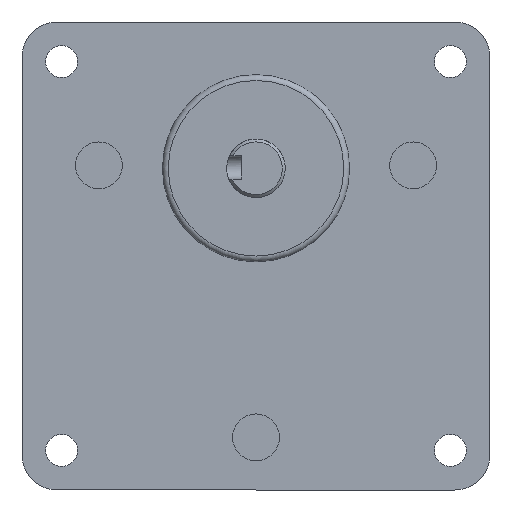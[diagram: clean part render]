
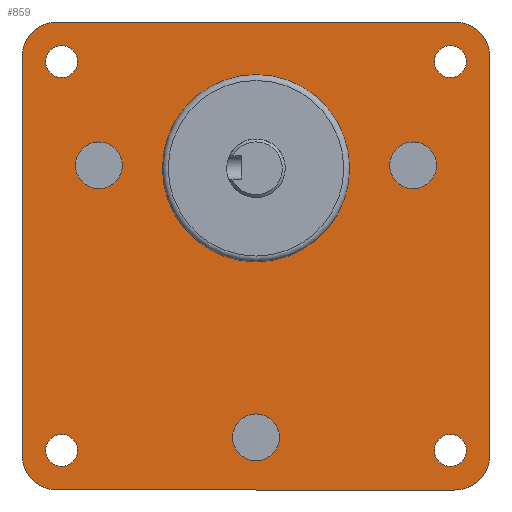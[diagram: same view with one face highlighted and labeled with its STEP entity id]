
A CAD part, front view. The second image highlights one B-rep face of the part: STEP entity #859.
In plain terms, the highlighted planar face has unit normal (0, -1, 0).
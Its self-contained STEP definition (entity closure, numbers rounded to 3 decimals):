
#121=CARTESIAN_POINT('',(24.847,0.0,18.964));
#122=VERTEX_POINT('',#121);
#123=CARTESIAN_POINT('',(26.847,0.0,15.5));
#124=DIRECTION('',(0.0,1.0,0.0));
#125=DIRECTION('',(0.5,0.0,-0.866));
#126=AXIS2_PLACEMENT_3D('',#123,#124,#125);
#127=CIRCLE('',#126,4.);
#128=EDGE_CURVE('',#122,#122,#127,.T.);
#158=CARTESIAN_POINT('',(-28.847,0.0,12.036));
#159=VERTEX_POINT('',#158);
#160=CARTESIAN_POINT('',(-26.847,0.0,15.5));
#161=DIRECTION('',(0.0,1.,0.0));
#162=DIRECTION('',(0.5,0.0,0.866));
#163=AXIS2_PLACEMENT_3D('',#160,#161,#162);
#164=CIRCLE('',#163,4.0);
#165=EDGE_CURVE('',#159,#159,#164,.T.);
#195=CARTESIAN_POINT('',(4.0,0.0,-31.0));
#196=VERTEX_POINT('',#195);
#197=CARTESIAN_POINT('',(0.0,0.0,-31.0));
#198=DIRECTION('',(0.0,1.0,0.0));
#199=DIRECTION('',(-1.0,0.0,0.0));
#200=AXIS2_PLACEMENT_3D('',#197,#198,#199);
#201=CIRCLE('',#200,4.0);
#202=EDGE_CURVE('',#196,#196,#201,.T.);
#474=CARTESIAN_POINT('',(35.985,0.0,-33.235));
#475=VERTEX_POINT('',#474);
#476=CARTESIAN_POINT('',(33.235,0.0,-33.235));
#477=DIRECTION('',(0.0,1.0,0.0));
#478=DIRECTION('',(1.0,0.0,0.0));
#479=AXIS2_PLACEMENT_3D('',#476,#477,#478);
#480=CIRCLE('',#479,2.75);
#481=EDGE_CURVE('',#475,#475,#480,.T.);
#523=CARTESIAN_POINT('',(-30.485,0.0,33.235));
#524=VERTEX_POINT('',#523);
#525=CARTESIAN_POINT('',(-33.235,0.0,33.235));
#526=DIRECTION('',(0.0,1.0,0.0));
#527=DIRECTION('',(1.0,0.0,0.0));
#528=AXIS2_PLACEMENT_3D('',#525,#526,#527);
#529=CIRCLE('',#528,2.75);
#530=EDGE_CURVE('',#524,#524,#529,.T.);
#572=CARTESIAN_POINT('',(35.985,0.0,33.235));
#573=VERTEX_POINT('',#572);
#574=CARTESIAN_POINT('',(33.235,0.0,33.235));
#575=DIRECTION('',(0.0,1.0,0.0));
#576=DIRECTION('',(1.0,0.0,0.0));
#577=AXIS2_PLACEMENT_3D('',#574,#575,#576);
#578=CIRCLE('',#577,2.75);
#579=EDGE_CURVE('',#573,#573,#578,.T.);
#621=CARTESIAN_POINT('',(-30.485,0.0,-33.235));
#622=VERTEX_POINT('',#621);
#623=CARTESIAN_POINT('',(-33.235,0.0,-33.235));
#624=DIRECTION('',(0.0,1.0,0.0));
#625=DIRECTION('',(1.0,0.0,0.0));
#626=AXIS2_PLACEMENT_3D('',#623,#624,#625);
#627=CIRCLE('',#626,2.75);
#628=EDGE_CURVE('',#622,#622,#627,.T.);
#677=CARTESIAN_POINT('',(16.0,0.0,15.));
#678=VERTEX_POINT('',#677);
#679=CARTESIAN_POINT('',(0.0,0.0,15.0));
#680=DIRECTION('',(0.0,1.0,0.0));
#681=DIRECTION('',(-1.0,0.0,0.0));
#682=AXIS2_PLACEMENT_3D('',#679,#680,#681);
#683=CIRCLE('',#682,16.0);
#684=EDGE_CURVE('',#678,#678,#683,.T.);
#720=CARTESIAN_POINT('',(34.0,0.0,40.));
#721=VERTEX_POINT('',#720);
#728=CARTESIAN_POINT('',(40.0,0.0,34.));
#729=VERTEX_POINT('',#728);
#730=CARTESIAN_POINT('',(34.0,0.0,34.));
#731=DIRECTION('',(0.0,1.,0.0));
#732=DIRECTION('',(0.707,0.0,0.707));
#733=AXIS2_PLACEMENT_3D('',#730,#731,#732);
#734=CIRCLE('',#733,6.);
#735=EDGE_CURVE('',#721,#729,#734,.T.);
#752=CARTESIAN_POINT('',(40.0,0.0,-34.));
#753=VERTEX_POINT('',#752);
#754=CARTESIAN_POINT('',(40.0,0.0,34.));
#755=DIRECTION('',(0.0,0.0,-1.0));
#756=VECTOR('',#755,68.);
#757=LINE('',#754,#756);
#758=EDGE_CURVE('',#729,#753,#757,.T.);
#777=CARTESIAN_POINT('',(0.,0.0,0.0));
#778=DIRECTION('',(0.0,1.0,0.0));
#779=DIRECTION('',(0.0,0.0,1.0));
#780=AXIS2_PLACEMENT_3D('',#777,#778,#779);
#781=PLANE('',#780);
#782=ORIENTED_EDGE('',*,*,#735,.F.);
#783=CARTESIAN_POINT('',(-34.0,0.0,40.0));
#784=VERTEX_POINT('',#783);
#785=CARTESIAN_POINT('',(-34.0,0.0,40.0));
#786=DIRECTION('',(1.0,0.0,0.0));
#787=VECTOR('',#786,68.0);
#788=LINE('',#785,#787);
#789=EDGE_CURVE('',#784,#721,#788,.T.);
#790=ORIENTED_EDGE('',*,*,#789,.F.);
#791=CARTESIAN_POINT('',(-40.0,0.0,34.0));
#792=VERTEX_POINT('',#791);
#793=CARTESIAN_POINT('',(-34.0,0.0,34.0));
#794=DIRECTION('',(0.0,1.,0.0));
#795=DIRECTION('',(-0.707,0.0,0.707));
#796=AXIS2_PLACEMENT_3D('',#793,#794,#795);
#797=CIRCLE('',#796,6.);
#798=EDGE_CURVE('',#792,#784,#797,.T.);
#799=ORIENTED_EDGE('',*,*,#798,.F.);
#800=CARTESIAN_POINT('',(-40.,0.0,-34.0));
#801=VERTEX_POINT('',#800);
#802=CARTESIAN_POINT('',(-40.,0.0,-34.0));
#803=DIRECTION('',(0.0,0.0,1.0));
#804=VECTOR('',#803,68.0);
#805=LINE('',#802,#804);
#806=EDGE_CURVE('',#801,#792,#805,.T.);
#807=ORIENTED_EDGE('',*,*,#806,.F.);
#808=CARTESIAN_POINT('',(-34.0,0.0,-40.0));
#809=VERTEX_POINT('',#808);
#810=CARTESIAN_POINT('',(-34.,0.0,-34.0));
#811=DIRECTION('',(0.0,1.,0.0));
#812=DIRECTION('',(-0.707,0.0,-0.707));
#813=AXIS2_PLACEMENT_3D('',#810,#811,#812);
#814=CIRCLE('',#813,6.);
#815=EDGE_CURVE('',#809,#801,#814,.T.);
#816=ORIENTED_EDGE('',*,*,#815,.F.);
#817=CARTESIAN_POINT('',(34.,0.0,-40.));
#818=VERTEX_POINT('',#817);
#819=CARTESIAN_POINT('',(34.,0.0,-40.));
#820=DIRECTION('',(-1.0,0.0,0.0));
#821=VECTOR('',#820,68.0);
#822=LINE('',#819,#821);
#823=EDGE_CURVE('',#818,#809,#822,.T.);
#824=ORIENTED_EDGE('',*,*,#823,.F.);
#825=CARTESIAN_POINT('',(34.,0.0,-34.));
#826=DIRECTION('',(0.0,1.,0.0));
#827=DIRECTION('',(0.707,0.0,-0.707));
#828=AXIS2_PLACEMENT_3D('',#825,#826,#827);
#829=CIRCLE('',#828,6.0);
#830=EDGE_CURVE('',#753,#818,#829,.T.);
#831=ORIENTED_EDGE('',*,*,#830,.F.);
#832=ORIENTED_EDGE('',*,*,#758,.F.);
#833=EDGE_LOOP('',(#782,#790,#799,#807,#816,#824,#831,#832));
#834=FACE_OUTER_BOUND('',#833,.T.);
#835=ORIENTED_EDGE('',*,*,#128,.T.);
#836=EDGE_LOOP('',(#835));
#837=FACE_BOUND('',#836,.T.);
#838=ORIENTED_EDGE('',*,*,#165,.T.);
#839=EDGE_LOOP('',(#838));
#840=FACE_BOUND('',#839,.T.);
#841=ORIENTED_EDGE('',*,*,#202,.T.);
#842=EDGE_LOOP('',(#841));
#843=FACE_BOUND('',#842,.T.);
#844=ORIENTED_EDGE('',*,*,#481,.T.);
#845=EDGE_LOOP('',(#844));
#846=FACE_BOUND('',#845,.T.);
#847=ORIENTED_EDGE('',*,*,#530,.T.);
#848=EDGE_LOOP('',(#847));
#849=FACE_BOUND('',#848,.T.);
#850=ORIENTED_EDGE('',*,*,#579,.T.);
#851=EDGE_LOOP('',(#850));
#852=FACE_BOUND('',#851,.T.);
#853=ORIENTED_EDGE('',*,*,#628,.T.);
#854=EDGE_LOOP('',(#853));
#855=FACE_BOUND('',#854,.T.);
#856=ORIENTED_EDGE('',*,*,#684,.T.);
#857=EDGE_LOOP('',(#856));
#858=FACE_BOUND('',#857,.T.);
#859=ADVANCED_FACE('',(#834,#837,#840,#843,#846,#849,#852,#855,#858),#781,.F.);
